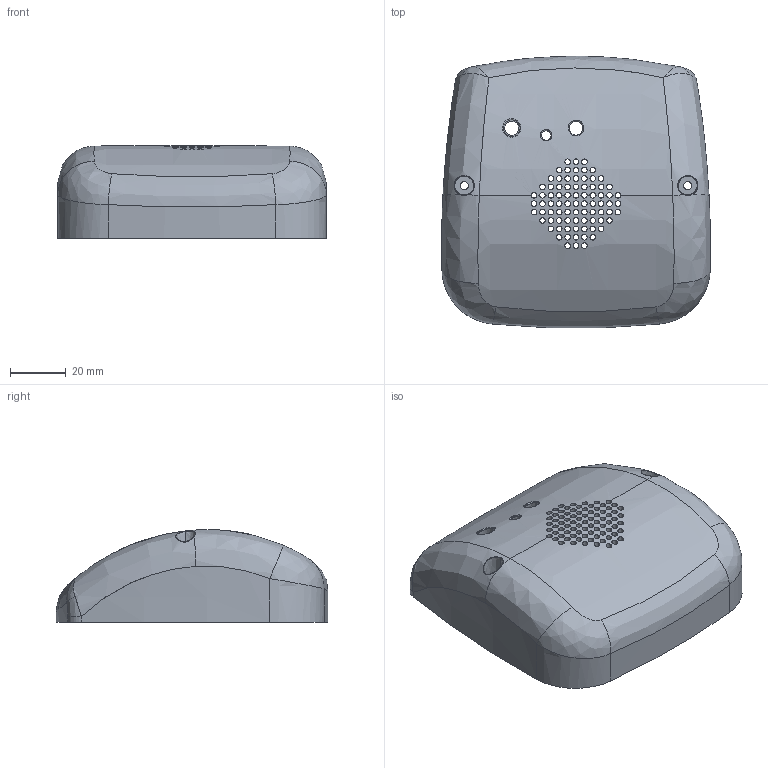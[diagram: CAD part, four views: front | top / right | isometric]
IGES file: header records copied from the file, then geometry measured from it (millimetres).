
Global section: file name: Filename.iges; native system: Open CASCADE 7.5; preprocessor: Open CASCADE IGES processor 7.5; date: 20210414.163430; units: millimetre
Bounding box: 96.15 x 97.14 x 33.15 mm (x, y, z)
Surface area: 35795.4 mm2 (no closed solid volume)
Topology: 0 solids, 0 shells, 303 faces, 1740 edges, 1740 vertices
Faces by surface type: revolution 240, bspline 63
